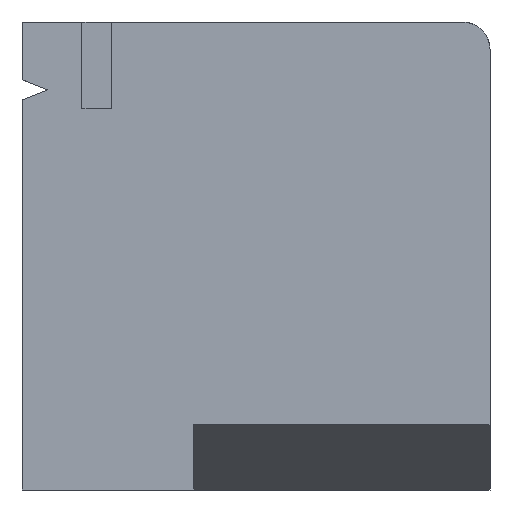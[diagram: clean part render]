
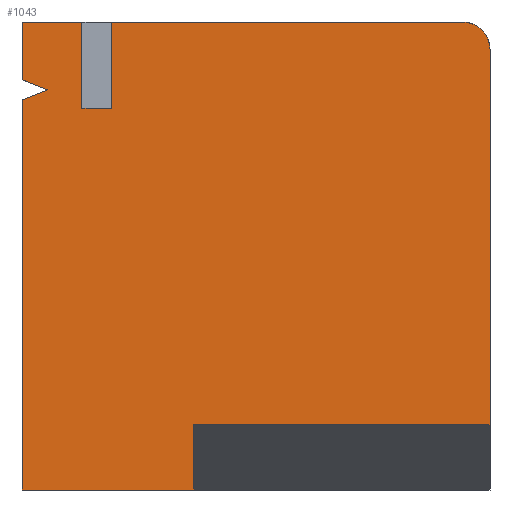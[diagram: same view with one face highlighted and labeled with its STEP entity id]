
A CAD part, front view. The second image highlights one B-rep face of the part: STEP entity #1043.
In plain terms, the highlighted planar face has unit normal (0, -1, 0).
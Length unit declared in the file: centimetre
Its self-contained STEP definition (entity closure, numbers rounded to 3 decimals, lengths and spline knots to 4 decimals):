
#16 = ORIENTED_EDGE ( 'NONE', *, *, #807, .F. ) ;
#51 = VERTEX_POINT ( 'NONE', #65 ) ;
#57 = VERTEX_POINT ( 'NONE', #1463 ) ;
#63 = CARTESIAN_POINT ( 'NONE',  ( 128.1657, 0., 816.2113 ) ) ;
#65 = CARTESIAN_POINT ( 'NONE',  ( 190.4485, 0., 816.2113 ) ) ;
#77 = CARTESIAN_POINT ( 'NONE',  ( 366.7472, 0., 139.5013 ) ) ;
#91 = DIRECTION ( 'NONE',  ( 0., 1., 0. ) ) ;
#114 = CARTESIAN_POINT ( 'NONE',  ( 128.1657, 0., 816.2113 ) ) ;
#122 = DIRECTION ( 'NONE',  ( 0., 0., -1. ) ) ;
#124 = EDGE_CURVE ( 'NONE', #57, #1162, #650, .T. ) ;
#128 = VECTOR ( 'NONE', #1155, 100. ) ;
#130 = CARTESIAN_POINT ( 'NONE',  ( 366.7472, 0., 0. ) ) ;
#136 = EDGE_CURVE ( 'NONE', #950, #51, #518, .T. ) ;
#152 = ORIENTED_EDGE ( 'NONE', *, *, #1122, .F. ) ;
#165 = VERTEX_POINT ( 'NONE', #1354 ) ;
#169 = VECTOR ( 'NONE', #535, 100. ) ;
#170 = AXIS2_PLACEMENT_3D ( 'NONE', #760, #286, #1225 ) ;
#178 = CARTESIAN_POINT ( 'NONE',  ( 0., 0., 1000. ) ) ;
#197 = LINE ( 'NONE', #661, #818 ) ;
#205 = DIRECTION ( 'NONE',  ( 1., 0., 0. ) ) ;
#208 = VERTEX_POINT ( 'NONE', #791 ) ;
#210 = FACE_OUTER_BOUND ( 'NONE', #961, .T. ) ;
#212 = EDGE_CURVE ( 'NONE', #277, #165, #1360, .T. ) ;
#230 = ORIENTED_EDGE ( 'NONE', *, *, #539, .T. ) ;
#231 = EDGE_CURVE ( 'NONE', #165, #1162, #1017, .T. ) ;
#232 = CARTESIAN_POINT ( 'NONE',  ( 1000., 0., 139.5013 ) ) ;
#237 = PLANE ( 'NONE',  #906 ) ;
#243 = CARTESIAN_POINT ( 'NONE',  ( 1000., 0., 1000. ) ) ;
#277 = VERTEX_POINT ( 'NONE', #554 ) ;
#283 = ORIENTED_EDGE ( 'NONE', *, *, #212, .F. ) ;
#286 = DIRECTION ( 'NONE',  ( 0., -1., 0. ) ) ;
#300 = VERTEX_POINT ( 'NONE', #1476 ) ;
#343 = CARTESIAN_POINT ( 'NONE',  ( 0., 0., 0. ) ) ;
#346 = DIRECTION ( 'NONE',  ( 0.932, 0., 0.363 ) ) ;
#387 = VERTEX_POINT ( 'NONE', #1443 ) ;
#404 = EDGE_CURVE ( 'NONE', #57, #610, #197, .T. ) ;
#418 = ORIENTED_EDGE ( 'NONE', *, *, #231, .F. ) ;
#426 = DIRECTION ( 'NONE',  ( 0., 0., 1. ) ) ;
#442 = CARTESIAN_POINT ( 'NONE',  ( 0., 0., 1000. ) ) ;
#443 = LINE ( 'NONE', #1370, #128 ) ;
#449 = CARTESIAN_POINT ( 'NONE',  ( 0., 0., 1000. ) ) ;
#465 = LINE ( 'NONE', #114, #1419 ) ;
#475 = ORIENTED_EDGE ( 'NONE', *, *, #800, .F. ) ;
#491 = ORIENTED_EDGE ( 'NONE', *, *, #1005, .F. ) ;
#493 = CARTESIAN_POINT ( 'NONE',  ( 128.1657, 0., 1000. ) ) ;
#509 = VECTOR ( 'NONE', #122, 100. ) ;
#518 = LINE ( 'NONE', #974, #792 ) ;
#535 = DIRECTION ( 'NONE',  ( 0., 0., -1. ) ) ;
#539 = EDGE_CURVE ( 'NONE', #277, #981, #1387, .T. ) ;
#546 = EDGE_CURVE ( 'NONE', #387, #1087, #443, .T. ) ;
#554 = CARTESIAN_POINT ( 'NONE',  ( 0., 0., 833.3865 ) ) ;
#565 = EDGE_CURVE ( 'NONE', #981, #1172, #1252, .T. ) ;
#581 = DIRECTION ( 'NONE',  ( 1., 0., 0. ) ) ;
#601 = VERTEX_POINT ( 'NONE', #847 ) ;
#610 = VERTEX_POINT ( 'NONE', #493 ) ;
#621 = ORIENTED_EDGE ( 'NONE', *, *, #565, .T. ) ;
#650 = LINE ( 'NONE', #1313, #747 ) ;
#661 = CARTESIAN_POINT ( 'NONE',  ( 0., 0., 1000. ) ) ;
#664 = CARTESIAN_POINT ( 'NONE',  ( 55.458, 0., 854.9651 ) ) ;
#665 = DIRECTION ( 'NONE',  ( 0., 0., -1. ) ) ;
#709 = DIRECTION ( 'NONE',  ( 0., 0., -1. ) ) ;
#747 = VECTOR ( 'NONE', #1108, 100. ) ;
#760 = CARTESIAN_POINT ( 'NONE',  ( 941.1319, 0., 941.1319 ) ) ;
#791 = CARTESIAN_POINT ( 'NONE',  ( 190.4485, 0., 1000. ) ) ;
#792 = VECTOR ( 'NONE', #1321, 100. ) ;
#800 = EDGE_CURVE ( 'NONE', #387, #1172, #1110, .T. ) ;
#807 = EDGE_CURVE ( 'NONE', #208, #601, #1209, .T. ) ;
#818 = VECTOR ( 'NONE', #205, 100. ) ;
#847 = CARTESIAN_POINT ( 'NONE',  ( 941.1319, 0., 1000. ) ) ;
#864 = CARTESIAN_POINT ( 'NONE',  ( 0., 0., 0. ) ) ;
#890 = VECTOR ( 'NONE', #346, 100. ) ;
#903 = DIRECTION ( 'NONE',  ( -0.932, 0., 0.363 ) ) ;
#906 = AXIS2_PLACEMENT_3D ( 'NONE', #442, #91, #1014 ) ;
#910 = CARTESIAN_POINT ( 'NONE',  ( 0., 0., 833.3865 ) ) ;
#914 = VECTOR ( 'NONE', #581, 100. ) ;
#950 = VERTEX_POINT ( 'NONE', #63 ) ;
#961 = EDGE_LOOP ( 'NONE', ( #1339, #418, #283, #230, #621, #475, #1438, #152, #1329, #16, #1098, #975, #491, #1185 ) ) ;
#974 = CARTESIAN_POINT ( 'NONE',  ( 128.1657, 0., 816.2113 ) ) ;
#975 = ORIENTED_EDGE ( 'NONE', *, *, #136, .F. ) ;
#976 = DIRECTION ( 'NONE',  ( 1., 0., 0. ) ) ;
#981 = VERTEX_POINT ( 'NONE', #864 ) ;
#1005 = EDGE_CURVE ( 'NONE', #610, #950, #465, .T. ) ;
#1014 = DIRECTION ( 'NONE',  ( 0., 0., 1. ) ) ;
#1017 = LINE ( 'NONE', #664, #1474 ) ;
#1043 = ADVANCED_FACE ( 'NONE', ( #210 ), #237, .F. ) ;
#1052 = CARTESIAN_POINT ( 'NONE',  ( 0., 0., 876.5437 ) ) ;
#1081 = CIRCLE ( 'NONE', #170, 58.8681 ) ;
#1087 = VERTEX_POINT ( 'NONE', #232 ) ;
#1098 = ORIENTED_EDGE ( 'NONE', *, *, #1385, .F. ) ;
#1103 = CARTESIAN_POINT ( 'NONE',  ( 190.4485, 0., 816.2113 ) ) ;
#1108 = DIRECTION ( 'NONE',  ( 0., 0., -1. ) ) ;
#1110 = LINE ( 'NONE', #77, #169 ) ;
#1122 = EDGE_CURVE ( 'NONE', #300, #1087, #1181, .T. ) ;
#1155 = DIRECTION ( 'NONE',  ( 1., 0., 0. ) ) ;
#1162 = VERTEX_POINT ( 'NONE', #1052 ) ;
#1172 = VERTEX_POINT ( 'NONE', #130 ) ;
#1181 = LINE ( 'NONE', #243, #1365 ) ;
#1185 = ORIENTED_EDGE ( 'NONE', *, *, #404, .F. ) ;
#1209 = LINE ( 'NONE', #178, #1319 ) ;
#1225 = DIRECTION ( 'NONE',  ( 0., 0., 1. ) ) ;
#1252 = LINE ( 'NONE', #343, #914 ) ;
#1313 = CARTESIAN_POINT ( 'NONE',  ( 0., 0., 1000. ) ) ;
#1319 = VECTOR ( 'NONE', #976, 100. ) ;
#1321 = DIRECTION ( 'NONE',  ( 1., 0., 0. ) ) ;
#1329 = ORIENTED_EDGE ( 'NONE', *, *, #1462, .T. ) ;
#1339 = ORIENTED_EDGE ( 'NONE', *, *, #124, .T. ) ;
#1354 = CARTESIAN_POINT ( 'NONE',  ( 55.458, 0., 854.9651 ) ) ;
#1360 = LINE ( 'NONE', #910, #890 ) ;
#1365 = VECTOR ( 'NONE', #709, 100. ) ;
#1370 = CARTESIAN_POINT ( 'NONE',  ( 366.7472, 0., 139.5013 ) ) ;
#1385 = EDGE_CURVE ( 'NONE', #51, #208, #1433, .T. ) ;
#1387 = LINE ( 'NONE', #449, #509 ) ;
#1419 = VECTOR ( 'NONE', #665, 100. ) ;
#1433 = LINE ( 'NONE', #1103, #1469 ) ;
#1438 = ORIENTED_EDGE ( 'NONE', *, *, #546, .T. ) ;
#1443 = CARTESIAN_POINT ( 'NONE',  ( 366.7472, 0., 139.5013 ) ) ;
#1462 = EDGE_CURVE ( 'NONE', #300, #601, #1081, .T. ) ;
#1463 = CARTESIAN_POINT ( 'NONE',  ( 0., 0., 1000. ) ) ;
#1469 = VECTOR ( 'NONE', #426, 100. ) ;
#1474 = VECTOR ( 'NONE', #903, 100. ) ;
#1476 = CARTESIAN_POINT ( 'NONE',  ( 1000., 0., 941.1319 ) ) ;
